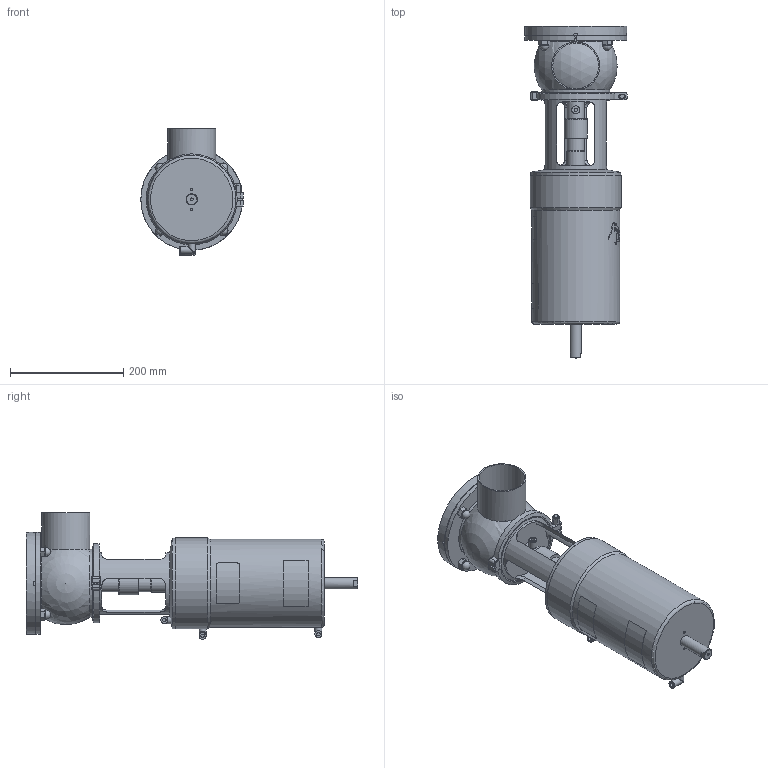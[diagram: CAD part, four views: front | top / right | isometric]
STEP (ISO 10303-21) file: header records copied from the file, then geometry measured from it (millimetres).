
FILE_DESCRIPTION (( 'STEP AP214' ), '1' );
FILE_NAME ('INNOVA T L W DIN 080 WITH FLANGE_10.252.16.0005.STEP', '2024-08-21T11:28:58', ( '' ), ( '' ), 'SwSTEP 2.0', 'SolidWorks 2023', '' );
FILE_SCHEMA (( 'AUTOMOTIVE_DESIGN' ));
Length unit declared in the file: millimetre
Products named in the file (6): 10.240.15.0006_DIN 080; 10.252.15.0001_DIN 080; INNOVA T L W DIN 080 WITH FLANGE_10.252.16.0005; 10.250.15.0002_Type T T2; 10.248.15.0003_DIN 080 _ OD 3"; 10.240.15.0001_DN 080
Assembly tree (5 placements, depth 2):
  INNOVA T L W DIN 080 WITH FLANGE_10.252.16.0005
    10.240.15.0006_DIN 080
    10.248.15.0003_DIN 080 _ OD 3"
    10.252.15.0001_DIN 080
    10.250.15.0002_Type T T2
    10.240.15.0001_DN 080
Bounding box: 181 x 587.33 x 224 mm (x, y, z)
Volume: 7734679.2 mm3; surface area: 522834.4 mm2
Topology: 5 solids, 5 shells, 415 faces, 1089 edges, 711 vertices
Faces by surface type: plane 196, cylinder 109, bspline 82, cone 21, sphere 6, torus 1
Full cylindrical faces by diameter (mm): 4.2 x2, 5 x1, 6 x1, 6.15 x3, 8 x2, 10.5 x3, 12 x1, 12.5 x9, 14 x2, 16 x4, 20 x1, 30.5 x2, 32 x1, 41 x1, 81 x1, 85 x1, 109 x1, 110 x1, 120 x2, 132 x3, 143 x1, 156 x1, 160 x1, 161 x1, 180 x1
Entity records: 23900 total; most frequent: CARTESIAN_POINT 12842, ORIENTED_EDGE 1964, DIRECTION 1577, EDGE_CURVE 982, VERTEX_POINT 680, AXIS2_PLACEMENT_3D 592, EDGE_LOOP 528, FACE_OUTER_BOUND 465
